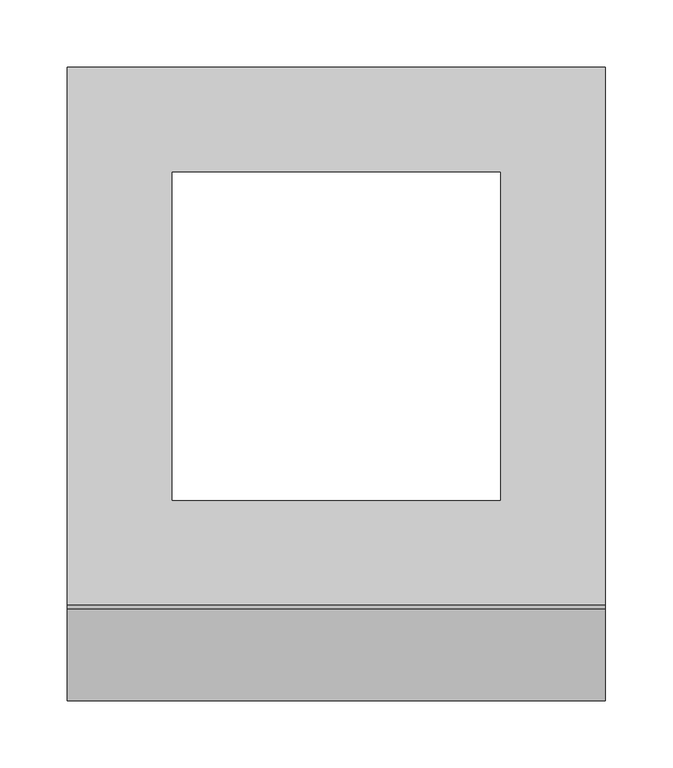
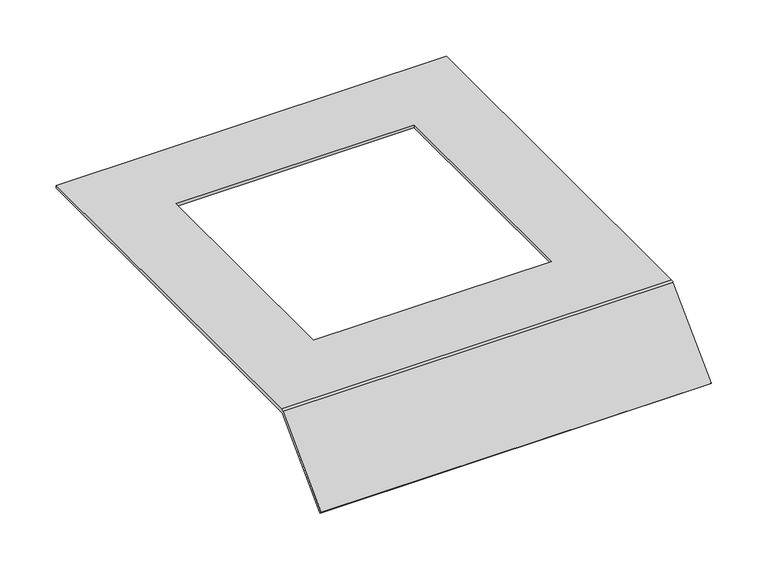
"""IFC4 building model written with IfcOpenShell, lengths in millimetres: proxy geometry, Electrical_Installation_Hager_Covers-With-Installation-Opening-Q12 : Electrical_Installation_Hager_Covers-With-Installation-Opening-Q12."""

from ifc_helpers import new_model, si_unit, frame, origin, place, context, project, spatial, polyline, circle_curve, source, transform, mapped, element, save
from ifc_brep_helpers import plane_surface, cylinder_surface, revolved_surface, advanced_brep


def electrical_fixtures_1408edab(model_context):
    return source(origin(), model_context, "Body", "AdvancedBrep", [
        advanced_brep(
        [(0.0, 200.0, 40.5), (0.0, 200.0, 37.5), (0.0, -199.8229541, 37.5), (0.0, -200.8322972, 37.0819164), (0.0, -268.712807, -30.7985934), (0.0, -270.8341273, -28.6772731), (0.0, -202.8206472, 39.336207), (0.0, -200.0110025, 40.5), (400.0, 200.0, 40.5), (400.0, -200.0110025, 40.5), (400.0, -202.8206472, 39.336207), (400.0, -270.8341273, -28.6772731), (400.0, -268.712807, -30.7985934), (400.0, -200.8322972, 37.0819164), (400.0, -199.8229541, 37.5), (400.0, 200.0, 37.5), (322.0, 122.0, 37.5), (78.0, 122.0, 37.5), (78.0, -122.0, 37.5), (322.0, -122.0, 37.5), (78.0, 122.0, 40.5), (322.0, 122.0, 40.5), (322.0, -122.0, 40.5), (78.0, -122.0, 40.5)],
        [
            (0, 1),
            (1, 2),
            (2, 3, circle_curve(frame((0.0, -199.8229541, 36.0725733), z_axis=(1.0, 0.0, 0.0), x_axis=(0.0, 1.0, 0.0)), 1.4274267)),
            (3, 4),
            (4, 5),
            (5, 6),
            (6, 7, circle_curve(frame((0.0, -200.0110025, 36.5265623), z_axis=(-1.0, 0.0, 0.0), x_axis=(0.0, 1.0, 0.0)), 3.9734377)),
            (7, 0),
            (8, 9),
            (9, 10, circle_curve(frame((400.0, -200.0110025, 36.5265623), z_axis=(1.0, 0.0, 0.0), x_axis=(0.0, 1.0, 0.0)), 3.9734377)),
            (10, 11),
            (11, 12),
            (12, 13),
            (13, 14, circle_curve(frame((400.0, -199.8229541, 36.0725733), z_axis=(-1.0, 0.0, 0.0), x_axis=(0.0, 1.0, 0.0)), 1.4274267)),
            (14, 15),
            (15, 8),
            (0, 8),
            (15, 1),
            (14, 2),
            (16, 17),
            (17, 18),
            (18, 19),
            (19, 16),
            (13, 3),
            (12, 4),
            (11, 5),
            (10, 6),
            (9, 7),
            (20, 21),
            (21, 22),
            (22, 23),
            (23, 20),
            (16, 21),
            (20, 17),
            (23, 18),
            (22, 19),
        ],
        [
            plane_surface(frame((0.0, 0.3269864, 15.0), z_axis=(-1.0, 0.0, 0.0), x_axis=(0.0, 0.0, 1.0))),
            plane_surface(frame((400.0, 0.3269864, 15.0), z_axis=(1.0, 0.0, 0.0), x_axis=(0.0, 0.0, 1.0))),
            plane_surface(frame((0.0, 200.0, 40.5), z_axis=(0.0, 1.0, 0.0), x_axis=(1.0, 0.0, 0.0))),
            plane_surface(frame((0.0, 200.0, 37.5), z_axis=(0.0, 0.0, -1.0), x_axis=(1.0, 0.0, 0.0))),
            revolved_surface(polyline([(400.0, -198.3955274, 36.0725733), (0.0, -198.3955274, 36.0725733)]), (0.0, -199.8229541, 36.0725733), (1.0, 0.0, 0.0)),
            plane_surface(frame((0.0, -200.8322972, 37.0819164), z_axis=(0.0, 0.7071067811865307, -0.7071067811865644), x_axis=(1.0, 0.0, 0.0))),
            plane_surface(frame((0.0, -268.712807, -30.7985934), z_axis=(0.0, -0.7071067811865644, -0.7071067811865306), x_axis=(1.0, 0.0, 0.0))),
            plane_surface(frame((0.0, -270.8341273, -28.6772731), z_axis=(0.0, -0.7071067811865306, 0.7071067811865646), x_axis=(1.0, 0.0, 0.0))),
            cylinder_surface(frame((0.0, -200.0110025, 36.5265623), z_axis=(-1.0, 0.0, 0.0), x_axis=(0.0, 1.0, 0.0)), 3.9734377),
            plane_surface(frame((0.0, -200.0110025, 40.5), z_axis=(0.0, 0.0, 1.0), x_axis=(1.0, 0.0, 0.0))),
            plane_surface(frame((322.0, 122.0, 250.0), z_axis=(0.0, -1.0, 0.0), x_axis=(0.0, 0.0, -1.0))),
            plane_surface(frame((78.0, 122.0, 250.0), z_axis=(1.0, 0.0, 0.0), x_axis=(0.0, 0.0, -1.0))),
            plane_surface(frame((78.0, -122.0, 250.0), z_axis=(0.0, 1.0, 0.0), x_axis=(0.0, 0.0, -1.0))),
            plane_surface(frame((322.0, -122.0, 250.0), z_axis=(-1.0, 0.0, 0.0), x_axis=(0.0, 0.0, -1.0))),
        ],
        [
            (0, [[1, 2, 3, 4, 5, 6, 7, 8]]),
            (1, [[9, 10, 11, 12, 13, 14, 15, 16]]),
            (2, [[-1, 17, -16, 18]]),
            (3, [[-2, -18, -15, 19], [20, 21, 22, 23]]),
            (4, [[-3, -19, -14, 24]]),
            (5, [[-4, -24, -13, 25]]),
            (6, [[-5, -25, -12, 26]]),
            (7, [[-6, -26, -11, 27]]),
            (8, [[-7, -27, -10, 28]]),
            (9, [[-8, -28, -9, -17], [29, 30, 31, 32]]),
            (10, [[33, -29, 34, -20]]),
            (11, [[-34, -32, 35, -21]]),
            (12, [[-35, -31, 36, -22]]),
            (13, [[-33, -23, -36, -30]]),
        ],
    ),
    ])


if __name__ == "__main__":
    model = new_model("IFC4")
    model_context = context("Model", 3, world=origin())
    ifc_project = project(units=[si_unit("LENGTHUNIT", "METRE", prefix="MILLI")], contexts=[model_context])
    site = spatial("IfcSite", under=ifc_project)
    building = spatial("IfcBuilding", under=site)
    placement = place(None, origin())
    electrical_fixtures_shape = electrical_fixtures_1408edab(model_context)
    element("IfcBuildingElementProxy", 1, Name="Electrical_Installation_Hager_Covers-With-Installation-Opening-Q12 : Electrical_Installation_Hager_Covers-With-Installation-Opening-Q12", ObjectType="Electrical_Installation_Hager_Covers-With-Installation-Opening-Q12 : Electrical_Installation_Hager_Covers-With-Installation-Opening-Q12", at=placement, inside=building, context=model_context, shape_type="MappedRepresentation", body=[
        mapped(electrical_fixtures_shape, transform((0.0, 0.0, 0.0), x_axis=(1.0, 0.0, 0.0), y_axis=(0.0, 1.0, 0.0), z_axis=(0.0, 0.0, 1.0))),
    ])
    save(model, "model.ifc")
